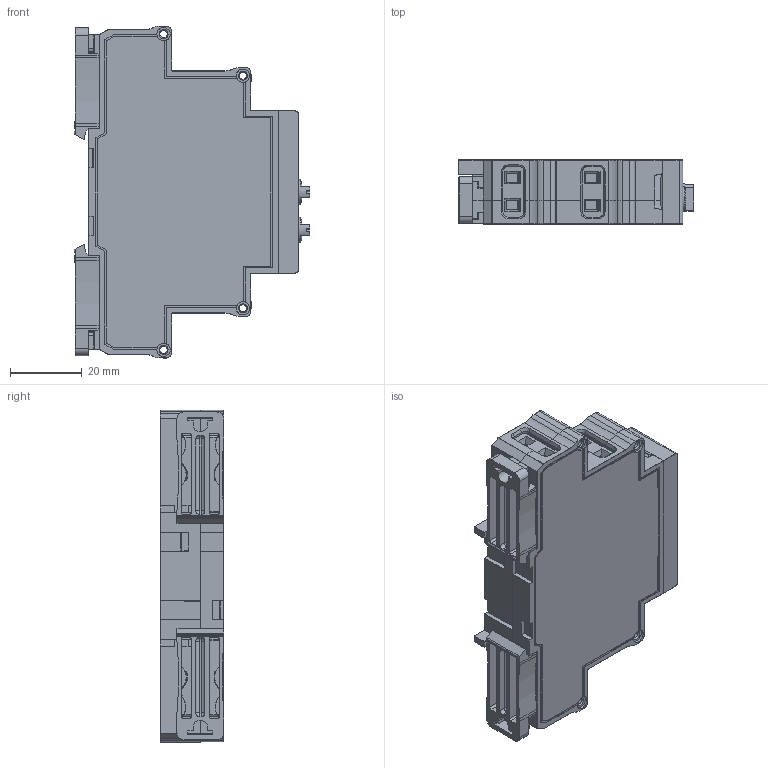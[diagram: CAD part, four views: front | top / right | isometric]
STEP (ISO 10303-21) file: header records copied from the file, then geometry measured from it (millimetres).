
FILE_DESCRIPTION(('STEP AP242'), '1');
FILE_NAME('ﾑ碚濱ﾐﾊﾍ-3-21-15', '', ('UNSPECIFIED'), ('UNSPECIFIED'), 'C3D Converter', 'C3D Toolkit', '');
FILE_SCHEMA(('AP242_MANAGED_MODEL_BASED_3D_ENGINEERING_MIM_LF { 1 0 10303 442 1 1 4 }'));
Length unit declared in the file: millimetre
Products named in the file (17): Case_UC1-2sR-2024_SimpleModel_6mm; Case_UC1-2sR-2024_SimpleModel_11mm; Case_UC1-2sR_Face_2024_18mm__FR.FP.0000023; Case13-18-23mm_2step_Lock_v01a_Build20140909_1552; DG128-5.08_Configurable_5.08x3; R-knob_2017_Hex2mm__Џｮ гｬｮｫзｭЁо; РКН-3-15-15 mark L2-L3; РКН-3-15-15 mark L1-N; РКН-3-15-15 mark 12-11-14; РКН-3-15-15 mark 22-21-24
Assembly tree (23 placements, depth 2):
  (unnamed)
    Case_UC1-2sR-2024_SimpleModel_6mm
    Case_UC1-2sR-2024_SimpleModel_11mm
    Case_UC1-2sR_Face_2024_18mm__FR.FP.0000023
    Case13-18-23mm_2step_Lock_v01a_Build20140909_1552  x2
    (unnamed)  x2
    DG128-5.08_Configurable_5.08x3  x2
    R-knob_2017_Hex2mm__Џｮ гｬｮｫзｭЁо  x2
    (unnamed)  x3
    (unnamed)  x2
    (unnamed)
    РКН-3-15-15 mark L2-L3
    РКН-3-15-15 mark L1-N
    РКН-3-15-15 mark 12-11-14
    РКН-3-15-15 mark 22-21-24
    (unnamed)
    (unnamed)
Bounding box: 65.63 x 17.75 x 92.4 mm (x, y, z)
Volume: 26407.1 mm3; surface area: 38104.7 mm2
Topology: 50 solids, 50 shells, 3625 faces, 9974 edges, 6456 vertices
Faces by surface type: plane 2796, cylinder 411, extrusion 122, torus 114, bspline 88, cone 58, sphere 36
Full cylindrical faces by diameter (mm): 1.238 x6, 2.1 x14, 2.2 x6, 3.7 x8, 3.9 x10, 4.5 x2, 5 x2
Entity records: 135717 total; most frequent: CARTESIAN_POINT 25428, ORIENTED_EDGE 18196, DIRECTION 15668, EDGE_CURVE 9098, VECTOR 7722, LINE 7600, VERTEX_POINT 5958, AXIS2_PLACEMENT_3D 3973
